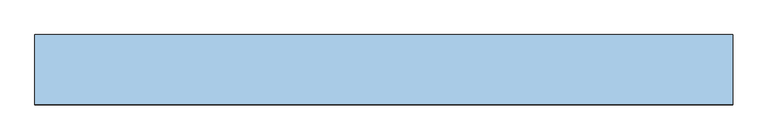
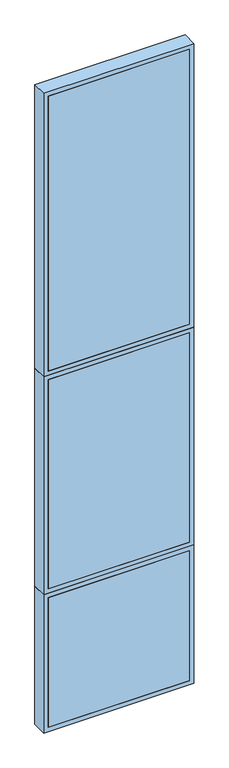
"""IFC4 building model written with IfcOpenShell, lengths in millimetres: window geometry, TRP_CP_ARC_FI_V1 : AL_P02_100."""

from ifc_helpers import new_model, si_unit, frame, origin, place, context, project, spatial, polyline, outline, extrude, source, transform, mapped, element, save


def window_13306c7d(model_context):
    return source(origin(), model_context, "Body", "SweptSolid", [
        extrude(outline(polyline([(470.0, -50.0), (-470.0, -50.0), (-470.0, -30.0), (470.0, -30.0), (470.0, -50.0)])), frame((0.0, 0.0, 30.0), z_axis=(0.0, 0.0, 1.0), x_axis=(1.0, 0.0, 0.0)), (0.0, 0.0, 1.0), 913.0),
        extrude(outline(polyline([(973.0, 500.0), (973.0, -500.0), (0.0, -500.0), (0.0, 500.0), (973.0, 500.0)]), holes=[polyline([(30.0, 470.0), (30.0, -470.0), (943.0, -470.0), (943.0, 470.0), (30.0, 470.0)])]), frame((0.0, -50.0, 0.0), z_axis=(0.0, 1.0, 0.0), x_axis=(0.0, 0.0, 1.0)), (0.0, 0.0, 1.0), 100.0),
        extrude(outline(polyline([(2506.0, 500.0), (2506.0, -500.0), (973.0, -500.0), (973.0, 500.0), (2506.0, 500.0)]), holes=[polyline([(1003.0, 470.0), (1003.0, -470.0), (2476.0, -470.0), (2476.0, 470.0), (1003.0, 470.0)])]), frame((0.0, -50.0, 0.0), z_axis=(0.0, 1.0, 0.0), x_axis=(0.0, 0.0, 1.0)), (0.0, 0.0, 1.0), 100.0),
        extrude(outline(polyline([(470.0, -50.0), (-470.0, -50.0), (-470.0, -30.0), (470.0, -30.0), (470.0, -50.0)])), frame((0.0, 0.0, 1003.0), z_axis=(0.0, 0.0, 1.0), x_axis=(1.0, 0.0, 0.0)), (0.0, 0.0, 1.0), 1473.0),
        extrude(outline(polyline([(4500.0, 500.0), (4500.0, -500.0), (2506.0, -500.0), (2506.0, 500.0), (4500.0, 500.0)]), holes=[polyline([(2536.0, 470.0), (2536.0, -470.0), (4470.0, -470.0), (4470.0, 470.0), (2536.0, 470.0)])]), frame((0.0, -50.0, 0.0), z_axis=(0.0, 1.0, 0.0), x_axis=(0.0, 0.0, 1.0)), (0.0, 0.0, 1.0), 100.0),
        extrude(outline(polyline([(470.0, -50.0), (-470.0, -50.0), (-470.0, -30.0), (470.0, -30.0), (470.0, -50.0)])), frame((0.0, 0.0, 2536.0), z_axis=(0.0, 0.0, 1.0), x_axis=(1.0, 0.0, 0.0)), (0.0, 0.0, 1.0), 1934.0),
    ])


if __name__ == "__main__":
    model = new_model("IFC4")
    model_context = context("Model", 3, world=origin())
    ifc_project = project(units=[si_unit("LENGTHUNIT", "METRE", prefix="MILLI")], contexts=[model_context])
    site = spatial("IfcSite", under=ifc_project)
    building = spatial("IfcBuilding", under=site)
    placement = place(None, origin())
    window_shape = window_13306c7d(model_context)
    element("IfcWindow", 1, ObjectType="TRP_CP_ARC_FI_V1 : AL_P02_100", at=placement, inside=building, context=model_context, shape_type="MappedRepresentation", body=[
        mapped(window_shape, transform((0.0, 0.0, 0.0), x_axis=(1.0, 0.0, 0.0), y_axis=(0.0, 1.0, 0.0), z_axis=(0.0, 0.0, 1.0))),
    ])
    save(model, "model.ifc")
